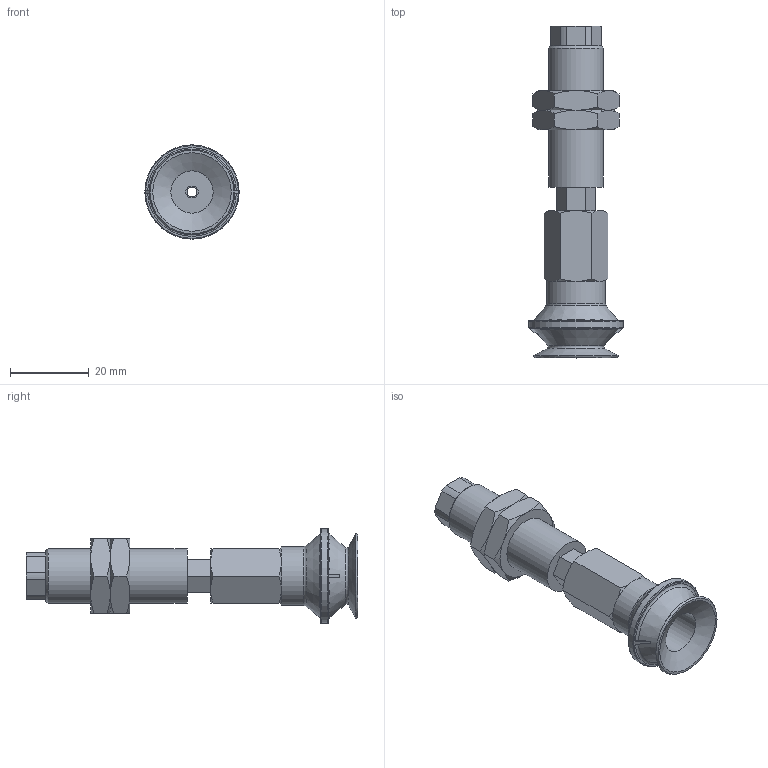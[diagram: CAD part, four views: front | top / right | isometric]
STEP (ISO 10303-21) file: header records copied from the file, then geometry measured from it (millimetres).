
FILE_DESCRIPTION(('STEP AP203'),'1');
FILE_NAME('.stp','2025-08-27T00:56:28',(' '),(' '),'Spatial InterOp 3D',' ',' ');
FILE_SCHEMA(('CONFIG_CONTROL_DESIGN'));
Length unit declared in the file: millimetre
Products named in the file (7): BNABPBTH-20-6-※; ADAPTER; NAPBTH-20-6-MBODY; Adapter20-T-NAPB; Nut-20-S-PB; NAPBTH-20-6-FBODY; BPBG-20-※
Assembly tree (7 placements, depth 2):
  BNABPBTH-20-6-※
    ADAPTER
    NAPBTH-20-6-MBODY
    Adapter20-T-NAPB
    Nut-20-S-PB  x2
    NAPBTH-20-6-FBODY
    BPBG-20-※
Bounding box: 24 x 84.5 x 24 mm (x, y, z)
Volume: 14316.3 mm3; surface area: 11015.6 mm2
Topology: 7 solids, 7 shells, 149 faces, 332 edges, 204 vertices
Faces by surface type: plane 69, cone 51, cylinder 20, torus 9
Full cylindrical faces by diameter (mm): 2.5 x1, 3 x2, 4.134 x2, 4.6 x1, 5 x1, 10.8 x1, 11 x1, 12.917 x2, 14 x1, 15 x1, 24 x1
Entity records: 3862 total; most frequent: CARTESIAN_POINT 880, DIRECTION 556, ORIENTED_EDGE 486, EDGE_CURVE 243, AXIS2_PLACEMENT_3D 227, EDGE_LOOP 176, VERTEX_POINT 167, FACE_OUTER_BOUND 146
